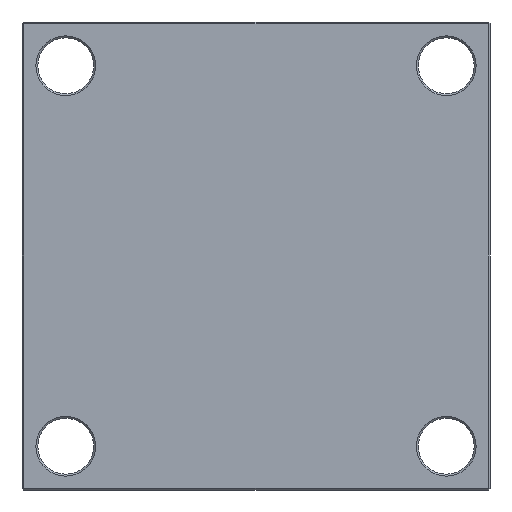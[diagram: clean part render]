
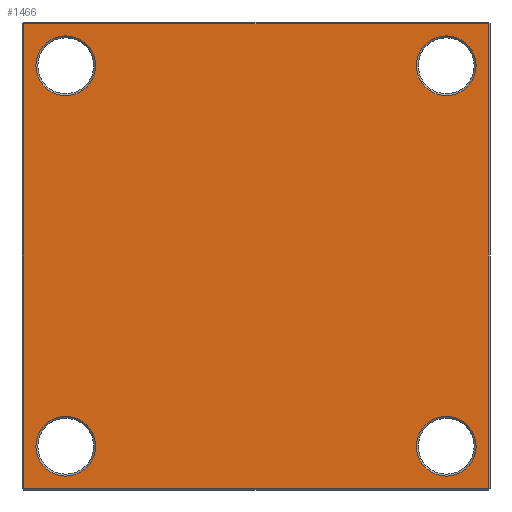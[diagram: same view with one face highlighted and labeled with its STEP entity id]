
A CAD part, front view. The second image highlights one B-rep face of the part: STEP entity #1466.
In plain terms, the highlighted planar face has unit normal (0, -1, 0).
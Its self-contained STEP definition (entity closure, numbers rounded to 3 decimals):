
#15 = DIRECTION ( 'NONE',  ( 0., 0., 1. ) ) ;
#16 = DIRECTION ( 'NONE',  ( 0., 1., 0. ) ) ;
#22 = CARTESIAN_POINT ( 'NONE',  ( 100., 0., 100. ) ) ;
#39 = CARTESIAN_POINT ( 'NONE',  ( 0., 0., 122. ) ) ;
#51 = VERTEX_POINT ( 'NONE', #1754 ) ;
#103 = EDGE_LOOP ( 'NONE', ( #1696, #1594, #339, #726 ) ) ;
#111 = CIRCLE ( 'NONE', #1545, 15.7 ) ;
#116 = EDGE_LOOP ( 'NONE', ( #2053, #1544 ) ) ;
#195 = ORIENTED_EDGE ( 'NONE', *, *, #636, .T. ) ;
#213 = CARTESIAN_POINT ( 'NONE',  ( 0., 0., 0. ) ) ;
#230 = CIRCLE ( 'NONE', #835, 15.7 ) ;
#242 = CARTESIAN_POINT ( 'NONE',  ( -100., 0., -100. ) ) ;
#244 = DIRECTION ( 'NONE',  ( 0., 1., 0. ) ) ;
#250 = DIRECTION ( 'NONE',  ( 0., 0., 1. ) ) ;
#321 = EDGE_CURVE ( 'NONE', #1574, #1307, #230, .T. ) ;
#339 = ORIENTED_EDGE ( 'NONE', *, *, #1255, .T. ) ;
#349 = EDGE_CURVE ( 'NONE', #1864, #1056, #637, .T. ) ;
#356 = EDGE_CURVE ( 'NONE', #778, #980, #1581, .T. ) ;
#360 = FACE_BOUND ( 'NONE', #1186, .T. ) ;
#364 = CARTESIAN_POINT ( 'NONE',  ( 122., 0., -122. ) ) ;
#428 = LINE ( 'NONE', #39, #1553 ) ;
#433 = CARTESIAN_POINT ( 'NONE',  ( 100., 0., -115.7 ) ) ;
#465 = CARTESIAN_POINT ( 'NONE',  ( 100., 0., 84.3 ) ) ;
#515 = LINE ( 'NONE', #878, #1138 ) ;
#552 = EDGE_CURVE ( 'NONE', #1065, #51, #841, .T. ) ;
#560 = CARTESIAN_POINT ( 'NONE',  ( -100., 0., 84.3 ) ) ;
#636 = EDGE_CURVE ( 'NONE', #51, #1065, #1842, .T. ) ;
#637 = CIRCLE ( 'NONE', #875, 15.7 ) ;
#648 = EDGE_CURVE ( 'NONE', #1067, #2147, #428, .T. ) ;
#692 = LINE ( 'NONE', #2039, #1619 ) ;
#708 = EDGE_CURVE ( 'NONE', #1431, #1067, #692, .T. ) ;
#709 = DIRECTION ( 'NONE',  ( 0., 0., 1. ) ) ;
#726 = ORIENTED_EDGE ( 'NONE', *, *, #1258, .T. ) ;
#734 = EDGE_CURVE ( 'NONE', #1307, #1574, #1009, .T. ) ;
#764 = CARTESIAN_POINT ( 'NONE',  ( -122., 0., 0. ) ) ;
#771 = DIRECTION ( 'NONE',  ( 0., 1., 0. ) ) ;
#778 = VERTEX_POINT ( 'NONE', #560 ) ;
#780 = CARTESIAN_POINT ( 'NONE',  ( -100., 0., -100. ) ) ;
#807 = DIRECTION ( 'NONE',  ( 0., 0., -1. ) ) ;
#835 = AXIS2_PLACEMENT_3D ( 'NONE', #780, #771, #709 ) ;
#841 = CIRCLE ( 'NONE', #920, 15.7 ) ;
#855 = FACE_BOUND ( 'NONE', #1879, .T. ) ;
#875 = AXIS2_PLACEMENT_3D ( 'NONE', #884, #882, #1040 ) ;
#878 = CARTESIAN_POINT ( 'NONE',  ( 0., 0., -122. ) ) ;
#882 = DIRECTION ( 'NONE',  ( 0., 1., 0. ) ) ;
#884 = CARTESIAN_POINT ( 'NONE',  ( 100., 0., -100. ) ) ;
#892 = AXIS2_PLACEMENT_3D ( 'NONE', #1601, #1548, #1639 ) ;
#915 = DIRECTION ( 'NONE',  ( 1., 0., 0. ) ) ;
#920 = AXIS2_PLACEMENT_3D ( 'NONE', #22, #16, #15 ) ;
#933 = AXIS2_PLACEMENT_3D ( 'NONE', #1614, #1203, #1816 ) ;
#935 = PLANE ( 'NONE',  #1742 ) ;
#951 = AXIS2_PLACEMENT_3D ( 'NONE', #242, #244, #250 ) ;
#969 = EDGE_CURVE ( 'NONE', #1056, #1864, #1142, .T. ) ;
#980 = VERTEX_POINT ( 'NONE', #1319 ) ;
#1009 = CIRCLE ( 'NONE', #951, 15.7 ) ;
#1040 = DIRECTION ( 'NONE',  ( 0., 0., 1. ) ) ;
#1056 = VERTEX_POINT ( 'NONE', #1808 ) ;
#1065 = VERTEX_POINT ( 'NONE', #465 ) ;
#1067 = VERTEX_POINT ( 'NONE', #1943 ) ;
#1138 = VECTOR ( 'NONE', #915, 1000. ) ;
#1142 = CIRCLE ( 'NONE', #1997, 15.7 ) ;
#1157 = ORIENTED_EDGE ( 'NONE', *, *, #1526, .T. ) ;
#1183 = ORIENTED_EDGE ( 'NONE', *, *, #321, .T. ) ;
#1186 = EDGE_LOOP ( 'NONE', ( #1719, #195 ) ) ;
#1201 = DIRECTION ( 'NONE',  ( 0., 1., 0. ) ) ;
#1203 = DIRECTION ( 'NONE',  ( 0., 1., 0. ) ) ;
#1210 = ORIENTED_EDGE ( 'NONE', *, *, #356, .T. ) ;
#1233 = DIRECTION ( 'NONE',  ( 0., 0., 1. ) ) ;
#1241 = CARTESIAN_POINT ( 'NONE',  ( 100., 0., -100. ) ) ;
#1250 = DIRECTION ( 'NONE',  ( 0., 1., 0. ) ) ;
#1255 = EDGE_CURVE ( 'NONE', #2147, #2135, #1915, .T. ) ;
#1257 = DIRECTION ( 'NONE',  ( 0., 0., 1. ) ) ;
#1258 = EDGE_CURVE ( 'NONE', #2135, #1431, #515, .T. ) ;
#1267 = ORIENTED_EDGE ( 'NONE', *, *, #734, .T. ) ;
#1307 = VERTEX_POINT ( 'NONE', #1479 ) ;
#1319 = CARTESIAN_POINT ( 'NONE',  ( -100., 0., 115.7 ) ) ;
#1328 = EDGE_LOOP ( 'NONE', ( #1210, #1157 ) ) ;
#1362 = CARTESIAN_POINT ( 'NONE',  ( -122., 0., 122. ) ) ;
#1431 = VERTEX_POINT ( 'NONE', #364 ) ;
#1466 = ADVANCED_FACE ( 'NONE', ( #855, #2091, #360, #2136, #1691 ), #935, .F. ) ;
#1475 = DIRECTION ( 'NONE',  ( 0., 1., 0. ) ) ;
#1479 = CARTESIAN_POINT ( 'NONE',  ( -100., 0., -84.3 ) ) ;
#1526 = EDGE_CURVE ( 'NONE', #980, #778, #111, .T. ) ;
#1531 = VECTOR ( 'NONE', #807, 1000. ) ;
#1544 = ORIENTED_EDGE ( 'NONE', *, *, #969, .T. ) ;
#1545 = AXIS2_PLACEMENT_3D ( 'NONE', #1752, #1475, #1546 ) ;
#1546 = DIRECTION ( 'NONE',  ( 0., 0., 1. ) ) ;
#1548 = DIRECTION ( 'NONE',  ( 0., 1., 0. ) ) ;
#1553 = VECTOR ( 'NONE', #1825, 1000. ) ;
#1574 = VERTEX_POINT ( 'NONE', #1714 ) ;
#1581 = CIRCLE ( 'NONE', #892, 15.7 ) ;
#1594 = ORIENTED_EDGE ( 'NONE', *, *, #648, .T. ) ;
#1601 = CARTESIAN_POINT ( 'NONE',  ( -100., 0., 100. ) ) ;
#1614 = CARTESIAN_POINT ( 'NONE',  ( 100., 0., 100. ) ) ;
#1619 = VECTOR ( 'NONE', #2054, 1000. ) ;
#1639 = DIRECTION ( 'NONE',  ( 0., 0., 1. ) ) ;
#1646 = CARTESIAN_POINT ( 'NONE',  ( -122., 0., -122. ) ) ;
#1691 = FACE_OUTER_BOUND ( 'NONE', #103, .T. ) ;
#1696 = ORIENTED_EDGE ( 'NONE', *, *, #708, .T. ) ;
#1714 = CARTESIAN_POINT ( 'NONE',  ( -100., 0., -115.7 ) ) ;
#1719 = ORIENTED_EDGE ( 'NONE', *, *, #552, .T. ) ;
#1742 = AXIS2_PLACEMENT_3D ( 'NONE', #213, #1201, #1233 ) ;
#1752 = CARTESIAN_POINT ( 'NONE',  ( -100., 0., 100. ) ) ;
#1754 = CARTESIAN_POINT ( 'NONE',  ( 100., 0., 115.7 ) ) ;
#1808 = CARTESIAN_POINT ( 'NONE',  ( 100., 0., -84.3 ) ) ;
#1816 = DIRECTION ( 'NONE',  ( 0., 0., 1. ) ) ;
#1825 = DIRECTION ( 'NONE',  ( -1., 0., 0. ) ) ;
#1842 = CIRCLE ( 'NONE', #933, 15.7 ) ;
#1864 = VERTEX_POINT ( 'NONE', #433 ) ;
#1879 = EDGE_LOOP ( 'NONE', ( #1183, #1267 ) ) ;
#1915 = LINE ( 'NONE', #764, #1531 ) ;
#1943 = CARTESIAN_POINT ( 'NONE',  ( 122., 0., 122. ) ) ;
#1997 = AXIS2_PLACEMENT_3D ( 'NONE', #1241, #1250, #1257 ) ;
#2039 = CARTESIAN_POINT ( 'NONE',  ( 122., 0., 0. ) ) ;
#2053 = ORIENTED_EDGE ( 'NONE', *, *, #349, .T. ) ;
#2054 = DIRECTION ( 'NONE',  ( 0., 0., 1. ) ) ;
#2091 = FACE_BOUND ( 'NONE', #116, .T. ) ;
#2135 = VERTEX_POINT ( 'NONE', #1646 ) ;
#2136 = FACE_BOUND ( 'NONE', #1328, .T. ) ;
#2147 = VERTEX_POINT ( 'NONE', #1362 ) ;
